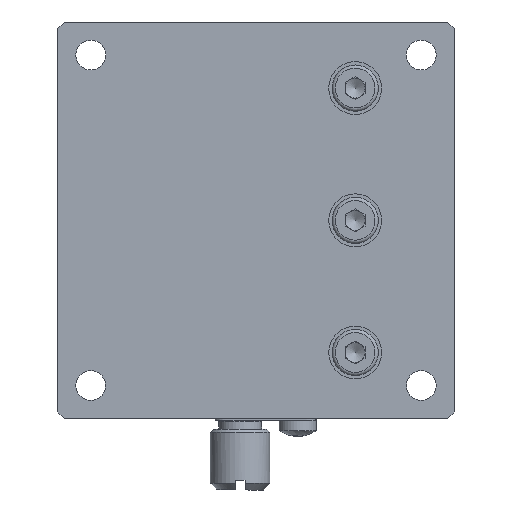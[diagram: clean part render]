
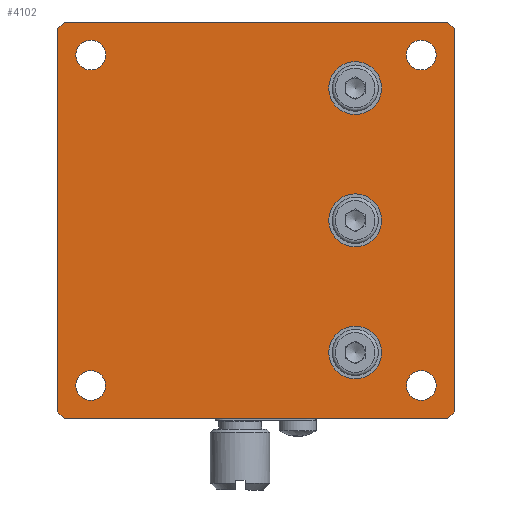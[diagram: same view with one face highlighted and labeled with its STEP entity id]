
A CAD part, front view. The second image highlights one B-rep face of the part: STEP entity #4102.
In plain terms, the highlighted planar face has unit normal (0, -1, 0).
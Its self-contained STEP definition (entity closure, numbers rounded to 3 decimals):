
#297 = CARTESIAN_POINT ( 'NONE',  ( 1., 0., 60. ) ) ;
#580 = DIRECTION ( 'NONE',  ( -1., 0., 0. ) ) ;
#581 = CARTESIAN_POINT ( 'NONE',  ( 55., 0., 57.25 ) ) ;
#782 = EDGE_LOOP ( 'NONE', ( #21295, #11806, #23242, #3923, #13702, #10022, #9783, #19078 ) ) ;
#1049 = CARTESIAN_POINT ( 'NONE',  ( 0., 0., 1. ) ) ;
#1197 = EDGE_CURVE ( 'NONE', #24523, #24523, #4316, .T. ) ;
#2056 = CIRCLE ( 'NONE', #3332, 2.25 ) ;
#2059 = EDGE_CURVE ( 'NONE', #14018, #14018, #17352, .T. ) ;
#2120 = ORIENTED_EDGE ( 'NONE', *, *, #14341, .F. ) ;
#2339 = VERTEX_POINT ( 'NONE', #21064 ) ;
#2585 = EDGE_CURVE ( 'NONE', #13405, #2339, #5640, .T. ) ;
#2640 = DIRECTION ( 'NONE',  ( 1., 0., 0. ) ) ;
#2807 = EDGE_CURVE ( 'NONE', #13405, #21910, #13210, .T. ) ;
#3023 = EDGE_CURVE ( 'NONE', #7938, #2339, #19197, .T. ) ;
#3095 = DIRECTION ( 'NONE',  ( 0., 0., -1. ) ) ;
#3174 = FACE_BOUND ( 'NONE', #22497, .T. ) ;
#3332 = AXIS2_PLACEMENT_3D ( 'NONE', #12142, #22801, #4008 ) ;
#3473 = CARTESIAN_POINT ( 'NONE',  ( 55., 0., 55. ) ) ;
#3842 = EDGE_LOOP ( 'NONE', ( #16547 ) ) ;
#3885 = VECTOR ( 'NONE', #20819, 1000. ) ;
#3923 = ORIENTED_EDGE ( 'NONE', *, *, #3023, .T. ) ;
#4008 = DIRECTION ( 'NONE',  ( 0., 0., 1. ) ) ;
#4102 = ADVANCED_FACE ( 'NONE', ( #3174, #17116, #7379, #25331, #21559, #19541, #5215, #19410 ), #23448, .F. ) ;
#4258 = ORIENTED_EDGE ( 'NONE', *, *, #12669, .T. ) ;
#4316 = CIRCLE ( 'NONE', #25492, 2.25 ) ;
#4454 = EDGE_CURVE ( 'NONE', #16976, #16976, #5671, .T. ) ;
#4716 = CARTESIAN_POINT ( 'NONE',  ( 45., 0., 50. ) ) ;
#4852 = DIRECTION ( 'NONE',  ( 0., -1., 0. ) ) ;
#4869 = CARTESIAN_POINT ( 'NONE',  ( 0., 0., 0. ) ) ;
#4991 = VECTOR ( 'NONE', #2640, 1000. ) ;
#5215 = FACE_BOUND ( 'NONE', #11486, .T. ) ;
#5298 = CARTESIAN_POINT ( 'NONE',  ( 60., 0., 59. ) ) ;
#5640 = LINE ( 'NONE', #5910, #20289 ) ;
#5671 = CIRCLE ( 'NONE', #26374, 2.25 ) ;
#5750 = LINE ( 'NONE', #16300, #5771 ) ;
#5771 = VECTOR ( 'NONE', #22095, 1000. ) ;
#5910 = CARTESIAN_POINT ( 'NONE',  ( 0., 0., 0. ) ) ;
#5933 = CIRCLE ( 'NONE', #21455, 4. ) ;
#6472 = EDGE_LOOP ( 'NONE', ( #26630 ) ) ;
#6953 = LINE ( 'NONE', #15210, #8828 ) ;
#7038 = VERTEX_POINT ( 'NONE', #581 ) ;
#7105 = DIRECTION ( 'NONE',  ( 0., 1., 0. ) ) ;
#7379 = FACE_BOUND ( 'NONE', #12561, .T. ) ;
#7525 = EDGE_CURVE ( 'NONE', #14021, #11881, #5750, .T. ) ;
#7597 = DIRECTION ( 'NONE',  ( 0., 0., 1. ) ) ;
#7634 = CARTESIAN_POINT ( 'NONE',  ( 60., 0., 1. ) ) ;
#7712 = CARTESIAN_POINT ( 'NONE',  ( 45., 0., 6. ) ) ;
#7938 = VERTEX_POINT ( 'NONE', #17540 ) ;
#8668 = VERTEX_POINT ( 'NONE', #13007 ) ;
#8828 = VECTOR ( 'NONE', #15475, 1000. ) ;
#9731 = CIRCLE ( 'NONE', #24835, 2.25 ) ;
#9783 = ORIENTED_EDGE ( 'NONE', *, *, #23267, .F. ) ;
#10022 = ORIENTED_EDGE ( 'NONE', *, *, #2807, .T. ) ;
#10205 = CARTESIAN_POINT ( 'NONE',  ( 5., 0., 5. ) ) ;
#11223 = EDGE_CURVE ( 'NONE', #15761, #17280, #6953, .T. ) ;
#11486 = EDGE_LOOP ( 'NONE', ( #26112 ) ) ;
#11806 = ORIENTED_EDGE ( 'NONE', *, *, #7525, .T. ) ;
#11881 = VERTEX_POINT ( 'NONE', #20477 ) ;
#12011 = DIRECTION ( 'NONE',  ( 0., 1., 0. ) ) ;
#12118 = CARTESIAN_POINT ( 'NONE',  ( 45., 0., 26. ) ) ;
#12142 = CARTESIAN_POINT ( 'NONE',  ( 55., 0., 5. ) ) ;
#12508 = DIRECTION ( 'NONE',  ( 0., 0., 1. ) ) ;
#12561 = EDGE_LOOP ( 'NONE', ( #20576 ) ) ;
#12653 = LINE ( 'NONE', #23178, #4991 ) ;
#12669 = EDGE_CURVE ( 'NONE', #7038, #7038, #9731, .T. ) ;
#12764 = CIRCLE ( 'NONE', #23937, 4. ) ;
#12938 = CARTESIAN_POINT ( 'NONE',  ( 0., 0., 0. ) ) ;
#13007 = CARTESIAN_POINT ( 'NONE',  ( 55., 0., 7.25 ) ) ;
#13032 = AXIS2_PLACEMENT_3D ( 'NONE', #13536, #19598, #19470 ) ;
#13210 = LINE ( 'NONE', #1049, #22947 ) ;
#13405 = VERTEX_POINT ( 'NONE', #17706 ) ;
#13536 = CARTESIAN_POINT ( 'NONE',  ( 45., 0., 30. ) ) ;
#13702 = ORIENTED_EDGE ( 'NONE', *, *, #2585, .F. ) ;
#13880 = AXIS2_PLACEMENT_3D ( 'NONE', #12938, #7105, #17253 ) ;
#14018 = VERTEX_POINT ( 'NONE', #12118 ) ;
#14021 = VERTEX_POINT ( 'NONE', #5298 ) ;
#14341 = EDGE_CURVE ( 'NONE', #25401, #25401, #5933, .T. ) ;
#15125 = EDGE_CURVE ( 'NONE', #8668, #8668, #2056, .T. ) ;
#15210 = CARTESIAN_POINT ( 'NONE',  ( 59., 0., 0. ) ) ;
#15416 = LINE ( 'NONE', #23095, #18791 ) ;
#15475 = DIRECTION ( 'NONE',  ( 0.707, 0., 0.707 ) ) ;
#15761 = VERTEX_POINT ( 'NONE', #19359 ) ;
#16154 = EDGE_CURVE ( 'NONE', #14021, #17280, #15416, .T. ) ;
#16246 = EDGE_CURVE ( 'NONE', #25802, #25802, #12764, .T. ) ;
#16300 = CARTESIAN_POINT ( 'NONE',  ( 60., 0., 59. ) ) ;
#16444 = CARTESIAN_POINT ( 'NONE',  ( 5., 0., 7.25 ) ) ;
#16508 = DIRECTION ( 'NONE',  ( 0., 0., -1. ) ) ;
#16547 = ORIENTED_EDGE ( 'NONE', *, *, #16246, .F. ) ;
#16589 = EDGE_LOOP ( 'NONE', ( #4258 ) ) ;
#16976 = VERTEX_POINT ( 'NONE', #25186 ) ;
#17116 = FACE_BOUND ( 'NONE', #3842, .T. ) ;
#17188 = EDGE_CURVE ( 'NONE', #7938, #11881, #12653, .T. ) ;
#17253 = DIRECTION ( 'NONE',  ( 0., 0., 1. ) ) ;
#17280 = VERTEX_POINT ( 'NONE', #7634 ) ;
#17324 = CARTESIAN_POINT ( 'NONE',  ( 45., 0., 46. ) ) ;
#17352 = CIRCLE ( 'NONE', #13032, 4. ) ;
#17540 = CARTESIAN_POINT ( 'NONE',  ( 1., 0., 60. ) ) ;
#17706 = CARTESIAN_POINT ( 'NONE',  ( 0., 0., 1. ) ) ;
#18791 = VECTOR ( 'NONE', #3095, 1000. ) ;
#19078 = ORIENTED_EDGE ( 'NONE', *, *, #11223, .T. ) ;
#19197 = LINE ( 'NONE', #297, #3885 ) ;
#19359 = CARTESIAN_POINT ( 'NONE',  ( 59., 0., 0. ) ) ;
#19410 = FACE_OUTER_BOUND ( 'NONE', #782, .T. ) ;
#19470 = DIRECTION ( 'NONE',  ( 0., 0., -1. ) ) ;
#19541 = FACE_BOUND ( 'NONE', #16589, .T. ) ;
#19598 = DIRECTION ( 'NONE',  ( 0., -1., 0. ) ) ;
#19619 = CARTESIAN_POINT ( 'NONE',  ( 5., 0., 55. ) ) ;
#20217 = ORIENTED_EDGE ( 'NONE', *, *, #15125, .T. ) ;
#20289 = VECTOR ( 'NONE', #26564, 1000. ) ;
#20477 = CARTESIAN_POINT ( 'NONE',  ( 59., 0., 60. ) ) ;
#20576 = ORIENTED_EDGE ( 'NONE', *, *, #2059, .F. ) ;
#20812 = DIRECTION ( 'NONE',  ( 0., -1., 0. ) ) ;
#20819 = DIRECTION ( 'NONE',  ( -0.707, 0., -0.707 ) ) ;
#21064 = CARTESIAN_POINT ( 'NONE',  ( 0., 0., 59. ) ) ;
#21074 = CARTESIAN_POINT ( 'NONE',  ( 1., 0., 0. ) ) ;
#21295 = ORIENTED_EDGE ( 'NONE', *, *, #16154, .F. ) ;
#21455 = AXIS2_PLACEMENT_3D ( 'NONE', #4716, #20812, #16508 ) ;
#21559 = FACE_BOUND ( 'NONE', #24995, .T. ) ;
#21701 = DIRECTION ( 'NONE',  ( 0.707, 0., -0.707 ) ) ;
#21906 = DIRECTION ( 'NONE',  ( 0., 1., 0. ) ) ;
#21910 = VERTEX_POINT ( 'NONE', #21074 ) ;
#22095 = DIRECTION ( 'NONE',  ( -0.707, 0., 0.707 ) ) ;
#22497 = EDGE_LOOP ( 'NONE', ( #2120 ) ) ;
#22801 = DIRECTION ( 'NONE',  ( 0., 1., 0. ) ) ;
#22947 = VECTOR ( 'NONE', #21701, 1000. ) ;
#23095 = CARTESIAN_POINT ( 'NONE',  ( 60., 0., 0. ) ) ;
#23178 = CARTESIAN_POINT ( 'NONE',  ( 0., 0., 60. ) ) ;
#23242 = ORIENTED_EDGE ( 'NONE', *, *, #17188, .F. ) ;
#23248 = VECTOR ( 'NONE', #580, 1000. ) ;
#23267 = EDGE_CURVE ( 'NONE', #15761, #21910, #23380, .T. ) ;
#23365 = CARTESIAN_POINT ( 'NONE',  ( 45., 0., 10. ) ) ;
#23380 = LINE ( 'NONE', #4869, #23248 ) ;
#23448 = PLANE ( 'NONE',  #13880 ) ;
#23937 = AXIS2_PLACEMENT_3D ( 'NONE', #23365, #4852, #25510 ) ;
#24516 = DIRECTION ( 'NONE',  ( 0., 1., 0. ) ) ;
#24523 = VERTEX_POINT ( 'NONE', #16444 ) ;
#24835 = AXIS2_PLACEMENT_3D ( 'NONE', #3473, #12011, #26305 ) ;
#24995 = EDGE_LOOP ( 'NONE', ( #20217 ) ) ;
#25186 = CARTESIAN_POINT ( 'NONE',  ( 5., 0., 57.25 ) ) ;
#25331 = FACE_BOUND ( 'NONE', #6472, .T. ) ;
#25401 = VERTEX_POINT ( 'NONE', #17324 ) ;
#25492 = AXIS2_PLACEMENT_3D ( 'NONE', #10205, #24516, #12508 ) ;
#25510 = DIRECTION ( 'NONE',  ( 0., 0., -1. ) ) ;
#25802 = VERTEX_POINT ( 'NONE', #7712 ) ;
#26112 = ORIENTED_EDGE ( 'NONE', *, *, #4454, .T. ) ;
#26305 = DIRECTION ( 'NONE',  ( 0., 0., 1. ) ) ;
#26374 = AXIS2_PLACEMENT_3D ( 'NONE', #19619, #21906, #7597 ) ;
#26564 = DIRECTION ( 'NONE',  ( 0., 0., 1. ) ) ;
#26630 = ORIENTED_EDGE ( 'NONE', *, *, #1197, .T. ) ;
